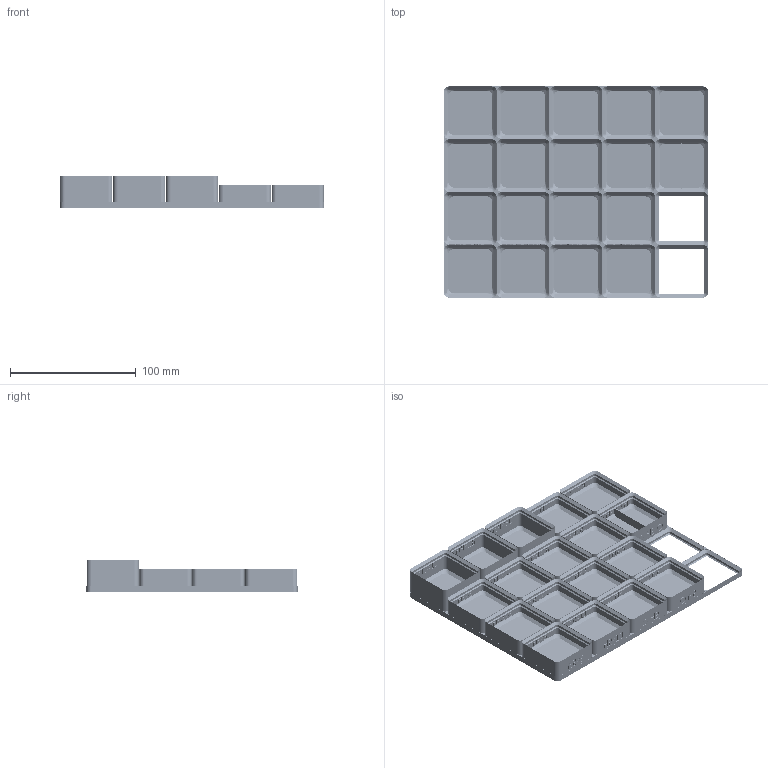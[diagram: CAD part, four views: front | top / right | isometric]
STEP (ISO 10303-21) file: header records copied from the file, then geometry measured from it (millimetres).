
FILE_DESCRIPTION(('Open CASCADE Model'),'2;1');
FILE_NAME('gridfinity_fastener_organizer','2026-11-16T17:22:22',( 'Author'),('Open CASCADE'),'Open CASCADE STEP processor 8.0', 'build123d','Unknown');
FILE_SCHEMA(('AUTOMOTIVE_DESIGN { 1 0 10303 214 1 1 1 1 }'));
Length unit declared in the file: millimetre
Products named in the file (20): gridfinity_fastener_organizer; baseplate_5x4; bin_m2x6; bin_m2x10; bin_nut_m2; bin_wshr_m2; bin_m2_5x6; bin_m2_5x10; bin_nut_m2_5; bin_wshr_m2_5; bin_m3x6; bin_m3x10; bin_m3x16; bin_m3x20; bin_nut_wshr_m3; bin_m4x10; bin_m4x16; bin_m4x20; bin_nut_m4; bin_wshr_m4
Assembly tree (19 placements, depth 2):
  gridfinity_fastener_organizer
    baseplate_5x4
    bin_m2x6
    bin_m2x10
    bin_nut_m2
    bin_wshr_m2
    bin_m2_5x6
    bin_m2_5x10
    bin_nut_m2_5
    bin_wshr_m2_5
    bin_m3x6
    bin_m3x10
    bin_m3x16
    bin_m3x20
    bin_nut_wshr_m3
    bin_m4x10
    bin_m4x16
    bin_m4x20
    bin_nut_m4
    bin_wshr_m4
Bounding box: 210 x 168 x 25.4 mm (x, y, z)
Volume: 228307.3 mm3; surface area: 188710.8 mm2
Topology: 19 solids, 19 shells, 17403 faces, 49527 edges, 32522 vertices
Faces by surface type: plane 16194, cylinder 615, cone 448, bspline 146
Full cylindrical faces by diameter (mm): 3.2 x72, 3.846 x4, 4.4 x4, 6.5 x72, 6.646 x4, 7.2 x4
Entity records: 1164595 total; most frequent: CARTESIAN_POINT 236151, DIRECTION 149709, LINE 111399, VECTOR 111399, ORIENTED_EDGE 99054, PCURVE 99054, DEFINITIONAL_REPRESENTATION 99054, EDGE_CURVE 49527
